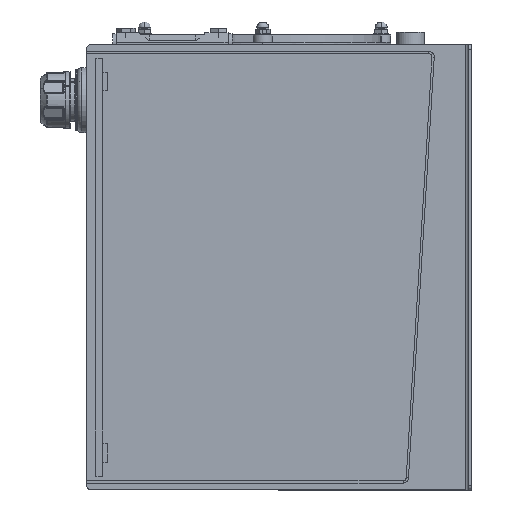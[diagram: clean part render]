
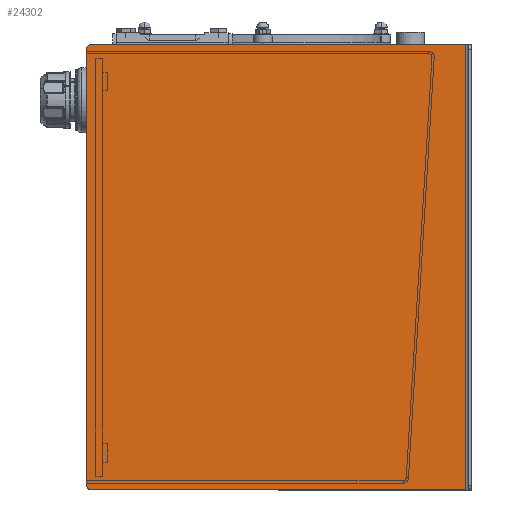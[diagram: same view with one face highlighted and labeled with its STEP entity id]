
A CAD part, left-side view. The second image highlights one B-rep face of the part: STEP entity #24302.
In plain terms, the highlighted planar face has unit normal (-1, 0, 0) as drawn and (0, 0, 1) by its records, which use the part's own axes.
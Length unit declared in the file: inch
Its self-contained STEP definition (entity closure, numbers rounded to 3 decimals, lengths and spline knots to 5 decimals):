
#780 = CARTESIAN_POINT ( 'NONE',  ( 11.75, 10.375, 0. ) ) ;
#922 = DIRECTION ( 'NONE',  ( -1., 0., 0. ) ) ;
#982 = CARTESIAN_POINT ( 'NONE',  ( 12., -10.0257, 0. ) ) ;
#1442 = AXIS2_PLACEMENT_3D ( 'NONE', #6211, #8891, #31990 ) ;
#3066 = EDGE_LOOP ( 'NONE', ( #26962, #23293, #7929, #12237, #3597, #5996 ) ) ;
#3127 = AXIS2_PLACEMENT_3D ( 'NONE', #27097, #22518, #22043 ) ;
#3597 = ORIENTED_EDGE ( 'NONE', *, *, #15858, .T. ) ;
#4741 = EDGE_CURVE ( 'NONE', #29393, #9233, #13611, .T. ) ;
#5996 = ORIENTED_EDGE ( 'NONE', *, *, #4741, .F. ) ;
#6211 = CARTESIAN_POINT ( 'NONE',  ( -11.75, 10.125, 0. ) ) ;
#6385 = LINE ( 'NONE', #21703, #20790 ) ;
#6476 = CARTESIAN_POINT ( 'NONE',  ( 12., -10.0257, 0. ) ) ;
#7375 = DIRECTION ( 'NONE',  ( 0., 1., 0. ) ) ;
#7777 = VERTEX_POINT ( 'NONE', #780 ) ;
#7929 = ORIENTED_EDGE ( 'NONE', *, *, #27334, .T. ) ;
#8891 = DIRECTION ( 'NONE',  ( 0., 0., 1. ) ) ;
#9003 = DIRECTION ( 'NONE',  ( 0., 0., 1. ) ) ;
#9223 = DIRECTION ( 'NONE',  ( -1., 0., 0. ) ) ;
#9233 = VERTEX_POINT ( 'NONE', #21097 ) ;
#9330 = VERTEX_POINT ( 'NONE', #14176 ) ;
#11857 = EDGE_CURVE ( 'NONE', #29393, #9330, #22219, .T. ) ;
#12237 = ORIENTED_EDGE ( 'NONE', *, *, #27279, .T. ) ;
#13235 = VECTOR ( 'NONE', #7375, 39.37008 ) ;
#13611 = LINE ( 'NONE', #982, #19703 ) ;
#14176 = CARTESIAN_POINT ( 'NONE',  ( 12., 10.125, 0. ) ) ;
#15358 = EDGE_CURVE ( 'NONE', #9330, #7777, #25146, .T. ) ;
#15858 = EDGE_CURVE ( 'NONE', #22502, #9233, #28118, .T. ) ;
#16282 = DIRECTION ( 'NONE',  ( -1., 0., 0. ) ) ;
#16596 = VERTEX_POINT ( 'NONE', #16904 ) ;
#16904 = CARTESIAN_POINT ( 'NONE',  ( -11.75, 10.375, 0. ) ) ;
#19703 = VECTOR ( 'NONE', #9223, 39.37008 ) ;
#19764 = VECTOR ( 'NONE', #25588, 39.37008 ) ;
#20790 = VECTOR ( 'NONE', #16282, 39.37008 ) ;
#21097 = CARTESIAN_POINT ( 'NONE',  ( -12., -10.0257, 0. ) ) ;
#21703 = CARTESIAN_POINT ( 'NONE',  ( -12., 10.375, 0. ) ) ;
#21909 = CIRCLE ( 'NONE', #1442, 0.25 ) ;
#22043 = DIRECTION ( 'NONE',  ( -1., 0., 0. ) ) ;
#22219 = LINE ( 'NONE', #22709, #13235 ) ;
#22502 = VERTEX_POINT ( 'NONE', #27852 ) ;
#22518 = DIRECTION ( 'NONE',  ( 0., 0., -1. ) ) ;
#22709 = CARTESIAN_POINT ( 'NONE',  ( 12., -10.375, 0. ) ) ;
#23293 = ORIENTED_EDGE ( 'NONE', *, *, #15358, .T. ) ;
#24036 = CARTESIAN_POINT ( 'NONE',  ( 11.75, 10.125, 0. ) ) ;
#24302 = ADVANCED_FACE ( 'NONE', ( #25052 ), #29945, .F. ) ;
#25052 = FACE_OUTER_BOUND ( 'NONE', #3066, .T. ) ;
#25146 = CIRCLE ( 'NONE', #30492, 0.25 ) ;
#25588 = DIRECTION ( 'NONE',  ( 0., -1., 0. ) ) ;
#26962 = ORIENTED_EDGE ( 'NONE', *, *, #11857, .T. ) ;
#27097 = CARTESIAN_POINT ( 'NONE',  ( 0., 0., 0. ) ) ;
#27279 = EDGE_CURVE ( 'NONE', #16596, #22502, #21909, .T. ) ;
#27334 = EDGE_CURVE ( 'NONE', #7777, #16596, #6385, .T. ) ;
#27630 = CARTESIAN_POINT ( 'NONE',  ( -12., -10.375, 0. ) ) ;
#27852 = CARTESIAN_POINT ( 'NONE',  ( -12., 10.125, 0. ) ) ;
#28118 = LINE ( 'NONE', #27630, #19764 ) ;
#29393 = VERTEX_POINT ( 'NONE', #6476 ) ;
#29945 = PLANE ( 'NONE',  #3127 ) ;
#30492 = AXIS2_PLACEMENT_3D ( 'NONE', #24036, #9003, #922 ) ;
#31990 = DIRECTION ( 'NONE',  ( -1., 0., 0. ) ) ;
